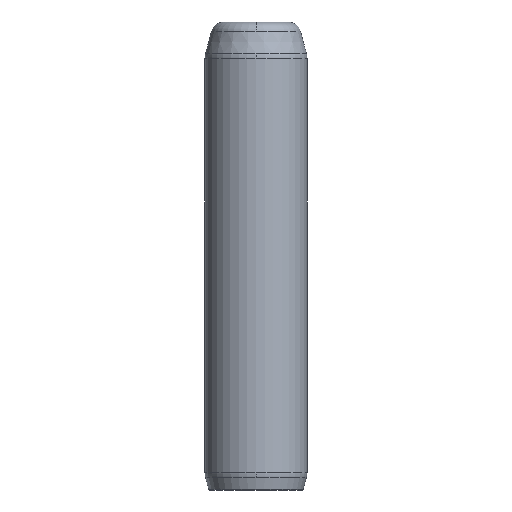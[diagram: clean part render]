
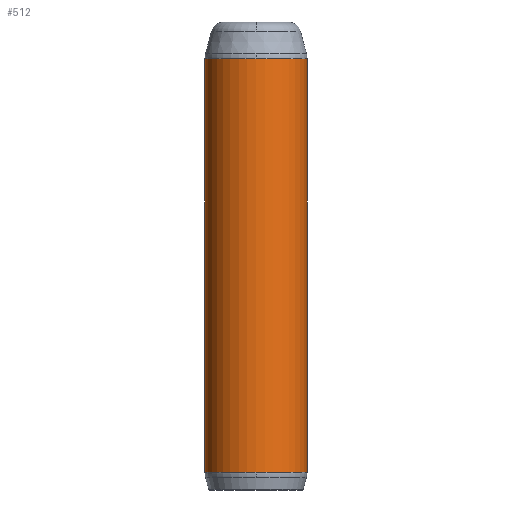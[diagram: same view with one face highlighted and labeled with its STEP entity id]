
A CAD part, front view. The second image highlights one B-rep face of the part: STEP entity #512.
In plain terms, the highlighted cylindrical face has radius 12 mm (diameter 24 mm), a partial arc.
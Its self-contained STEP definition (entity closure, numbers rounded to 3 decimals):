
#416=CARTESIAN_POINT('',(0.0,101.342,12.));
#417=VERTEX_POINT('',#416);
#444=CARTESIAN_POINT('',(-12.0,101.342,0.));
#445=VERTEX_POINT('',#444);
#453=CARTESIAN_POINT('',(0.0,101.342,0.0));
#454=DIRECTION('',(0.0,1.0,0.0));
#455=DIRECTION('',(1.0,0.0,0.0));
#456=AXIS2_PLACEMENT_3D('',#453,#454,#455);
#457=CIRCLE('',#456,12.);
#458=EDGE_CURVE('',#445,#417,#457,.T.);
#463=CARTESIAN_POINT('',(0.0,-0.701,0.0));
#464=DIRECTION('',(0.0,1.0,0.0));
#465=DIRECTION('',(1.0,0.0,0.0));
#466=AXIS2_PLACEMENT_3D('',#463,#464,#465);
#467=CYLINDRICAL_SURFACE('',#466,12.0);
#468=CARTESIAN_POINT('',(12.,101.342,0.0));
#469=VERTEX_POINT('',#468);
#470=CARTESIAN_POINT('',(12.0,4.158,0.0));
#471=VERTEX_POINT('',#470);
#472=CARTESIAN_POINT('',(12.,101.342,0.0));
#473=DIRECTION('',(0.0,-1.0,0.0));
#474=VECTOR('',#473,97.183);
#475=LINE('',#472,#474);
#476=EDGE_CURVE('',#469,#471,#475,.T.);
#477=ORIENTED_EDGE('',*,*,#476,.F.);
#478=CARTESIAN_POINT('',(0.0,101.342,0.0));
#479=DIRECTION('',(0.0,1.0,0.0));
#480=DIRECTION('',(1.0,0.0,0.0));
#481=AXIS2_PLACEMENT_3D('',#478,#479,#480);
#482=CIRCLE('',#481,12.);
#483=EDGE_CURVE('',#417,#469,#482,.T.);
#484=ORIENTED_EDGE('',*,*,#483,.F.);
#485=ORIENTED_EDGE('',*,*,#458,.F.);
#486=CARTESIAN_POINT('',(-12.0,4.158,0.));
#487=VERTEX_POINT('',#486);
#488=CARTESIAN_POINT('',(-12.0,101.342,0.));
#489=DIRECTION('',(0.0,-1.0,0.0));
#490=VECTOR('',#489,97.183);
#491=LINE('',#488,#490);
#492=EDGE_CURVE('',#445,#487,#491,.T.);
#493=ORIENTED_EDGE('',*,*,#492,.T.);
#494=CARTESIAN_POINT('',(0.0,4.158,12.0));
#495=VERTEX_POINT('',#494);
#496=CARTESIAN_POINT('',(0.0,4.158,0.0));
#497=DIRECTION('',(0.0,1.0,0.0));
#498=DIRECTION('',(1.0,0.0,0.0));
#499=AXIS2_PLACEMENT_3D('',#496,#497,#498);
#500=CIRCLE('',#499,12.0);
#501=EDGE_CURVE('',#487,#495,#500,.T.);
#502=ORIENTED_EDGE('',*,*,#501,.T.);
#503=CARTESIAN_POINT('',(0.0,4.158,0.0));
#504=DIRECTION('',(0.0,1.0,0.0));
#505=DIRECTION('',(1.0,0.0,0.0));
#506=AXIS2_PLACEMENT_3D('',#503,#504,#505);
#507=CIRCLE('',#506,12.0);
#508=EDGE_CURVE('',#495,#471,#507,.T.);
#509=ORIENTED_EDGE('',*,*,#508,.T.);
#510=EDGE_LOOP('',(#477,#484,#485,#493,#502,#509));
#511=FACE_OUTER_BOUND('',#510,.T.);
#512=ADVANCED_FACE('',(#511),#467,.T.);
